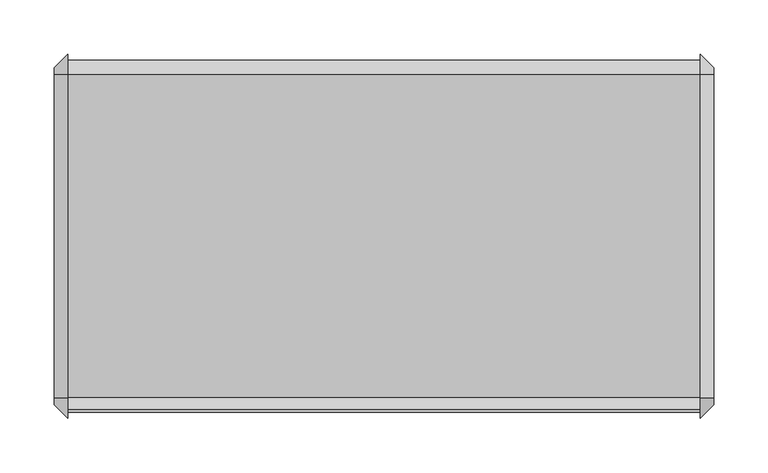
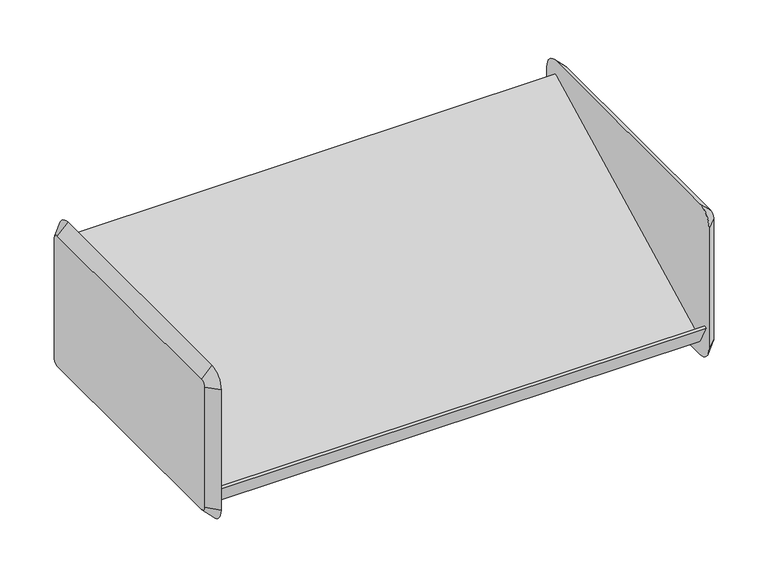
"""IFC4 building model written with IfcOpenShell, lengths in millimetres: furniture geometry."""

from ifc_helpers import new_model, si_unit, frame, origin, place, context, project, spatial, polyline, circle_curve, outline, extrude, source, transform, mapped, element, save
from ifc_brep_helpers import plane_surface, revolved_surface, advanced_brep


def furniture_cacd6572(model_context):
    return source(origin(), model_context, "Body", "SolidModel", [
        advanced_brep(
        [(180.8579955, 161.925, 1816.1), (180.8579955, -136.525, 1816.1), (180.8579955, -142.875, 1809.75), (180.8579955, -142.875, 1657.35), (180.8579955, -136.525, 1651.0), (180.8579955, 161.925, 1651.0), (180.8579955, 168.275, 1657.35), (180.8579955, 168.275, 1809.75), (168.1579955, 161.925, 1828.8), (168.1579955, 180.975, 1809.75), (168.1579955, 180.975, 1657.35), (168.1579955, 161.925, 1638.3), (168.1579955, -136.525, 1638.3), (168.1579955, -155.575, 1657.35), (168.1579955, -155.575, 1809.75), (168.1579955, -136.525, 1828.8)],
        [
            (0, 1),
            (1, 2, circle_curve(frame((180.8579955, -136.525, 1809.75), z_axis=(1.0, 2.0730084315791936e-12, -2.1742607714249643e-12), x_axis=(2.1742640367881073e-12, 0.0, 1.0)), 6.35)),
            (2, 3),
            (3, 4, circle_curve(frame((180.8579955, -136.525, 1657.35), z_axis=(1.0, 2.059685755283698e-12, 2.025046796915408e-12), x_axis=(2.059647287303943e-12, -1.0, 0.0)), 6.35)),
            (4, 5),
            (5, 6, circle_curve(frame((180.8579955, 161.925, 1657.35), z_axis=(1.0, 2.088995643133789e-12, -2.088995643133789e-12), x_axis=(-2.0890080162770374e-12, 0.0, -1.0)), 6.35)),
            (6, 7),
            (7, 0, circle_curve(frame((180.8579955, 161.925, 1809.75), z_axis=(1.0, 2.075672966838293e-12, 1.9610979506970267e-12), x_axis=(-2.075662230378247e-12, 1.0, 0.0)), 6.35)),
            (8, 9, circle_curve(frame((168.1579955, 161.925, 1809.75), z_axis=(-1.0, -2.075672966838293e-12, -1.9610979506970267e-12), x_axis=(-2.075662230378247e-12, 1.0, 0.0)), 19.05)),
            (9, 10),
            (10, 11, circle_curve(frame((168.1579955, 161.925, 1657.35), z_axis=(-1.0, -2.088995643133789e-12, 2.088995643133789e-12), x_axis=(-2.0890080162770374e-12, 0.0, -1.0)), 19.05)),
            (11, 12),
            (12, 13, circle_curve(frame((168.1579955, -136.525, 1657.35), z_axis=(-1.0, -2.059685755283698e-12, -2.025046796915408e-12), x_axis=(2.059647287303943e-12, -1.0, 0.0)), 19.05)),
            (13, 14),
            (14, 15, circle_curve(frame((168.1579955, -136.525, 1809.75), z_axis=(-1.0, -2.0730084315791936e-12, 2.1742607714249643e-12), x_axis=(2.1742640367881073e-12, 0.0, 1.0)), 19.05)),
            (15, 8),
            (15, 1),
            (0, 8),
            (14, 2),
            (13, 3),
            (12, 4),
            (11, 5),
            (10, 6),
            (9, 7),
        ],
        [
            plane_surface(frame((180.8579955, 12.7, 1733.55), z_axis=(1.0, 0.0, 0.0), x_axis=(0.0, -1.0, 0.0))),
            plane_surface(frame((168.1579955, 12.7, 1733.55), z_axis=(-1.0, 0.0, 0.0), x_axis=(0.0, -1.0, 0.0))),
            plane_surface(frame((168.1579955, 12.7, 1828.8), z_axis=(0.7071067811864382, 0.0, 0.7071067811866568), x_axis=(0.0, -1.0, 0.0))),
            revolved_surface(polyline([(180.8579955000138, -136.525, 1816.0999999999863), (168.1579955, -136.525, 1828.8)]), (187.2079955, -136.525, 1809.75), (-1.0, -2.0730084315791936e-12, 2.1742607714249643e-12)),
            plane_surface(frame((168.1579955, -155.575, 1733.55), z_axis=(0.707106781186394, -0.7071067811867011, 0.0), x_axis=(0.0, 0.0, -1.0))),
            revolved_surface(polyline([(180.85799550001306, -142.87499999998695, 1657.35), (168.1579955, -155.575, 1657.35)]), (187.2079955, -136.525, 1657.35), (-1.0, -2.059685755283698e-12, -2.025046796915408e-12)),
            plane_surface(frame((168.1579955, 12.7, 1638.3), z_axis=(0.7071067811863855, 0.0, -0.7071067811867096), x_axis=(0.0, 1.0, 0.0))),
            revolved_surface(polyline([(180.8579955, 161.925, 1651.0), (168.1579954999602, 161.925, 1638.2999999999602)]), (187.2079955, 161.925, 1657.35), (-1.0, -2.088995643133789e-12, 2.088995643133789e-12)),
            plane_surface(frame((168.1579955, 180.975, 1733.55), z_axis=(0.707106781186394, 0.7071067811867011, 0.0), x_axis=(0.0, 0.0, 1.0))),
            revolved_surface(polyline([(180.8579955, 168.27500000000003, 1809.75), (168.15799549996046, 180.97500000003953, 1809.75)]), (187.2079955, 161.925, 1809.75), (-1.0, -2.075672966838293e-12, -1.9610979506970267e-12)),
        ],
        [
            (0, [[1, 2, 3, 4, 5, 6, 7, 8]]),
            (1, [[9, 10, 11, 12, 13, 14, 15, 16]]),
            (2, [[-16, 17, -1, 18]]),
            (3, [[-15, 19, -2, -17]]),
            (4, [[-14, 20, -3, -19]]),
            (5, [[-13, 21, -4, -20]]),
            (6, [[-12, 22, -5, -21]]),
            (7, [[-11, 23, -6, -22]]),
            (8, [[-10, 24, -7, -23]]),
            (9, [[-9, -18, -8, -24]]),
        ],
    ),
        advanced_brep(
        [(-428.7420045, -136.525, 1816.1), (-428.7420045, 161.925, 1816.1), (-428.7420045, 168.275, 1809.75), (-428.7420045, 168.275, 1657.35), (-428.7420045, 161.925, 1651.0), (-428.7420045, -136.525, 1651.0), (-428.7420045, -142.875, 1657.35), (-428.7420045, -142.875, 1809.75), (-416.0420045, -136.525, 1828.8), (-416.0420045, -155.575, 1809.75), (-416.0420045, -155.575, 1657.35), (-416.0420045, -136.525, 1638.3), (-416.0420045, 161.925, 1638.3), (-416.0420045, 180.975, 1657.35), (-416.0420045, 180.975, 1809.75), (-416.0420045, 161.925, 1828.8)],
        [
            (0, 1),
            (1, 2, circle_curve(frame((-428.7420045, 161.925, 1809.75), z_axis=(-1.0, 0.0, 0.0), x_axis=(0.0, 0.0, 1.0)), 6.35)),
            (2, 3),
            (3, 4, circle_curve(frame((-428.7420045, 161.925, 1657.35), z_axis=(-1.0, 0.0, 0.0), x_axis=(0.0, 1.0, 0.0)), 6.35)),
            (4, 5),
            (5, 6, circle_curve(frame((-428.7420045, -136.525, 1657.35), z_axis=(-1.0, 0.0, 0.0), x_axis=(0.0, 0.0, -1.0)), 6.35)),
            (6, 7),
            (7, 0, circle_curve(frame((-428.7420045, -136.525, 1809.75), z_axis=(-1.0, 0.0, 0.0), x_axis=(0.0, -1.0, 0.0)), 6.35)),
            (8, 9, circle_curve(frame((-416.0420045, -136.525, 1809.75), z_axis=(1.0, 0.0, 0.0), x_axis=(0.0, -1.0, 0.0)), 19.05)),
            (9, 10),
            (10, 11, circle_curve(frame((-416.0420045, -136.525, 1657.35), z_axis=(1.0, 0.0, 0.0), x_axis=(0.0, 0.0, -1.0)), 19.05)),
            (11, 12),
            (12, 13, circle_curve(frame((-416.0420045, 161.925, 1657.35), z_axis=(1.0, 0.0, 0.0), x_axis=(0.0, 1.0, 0.0)), 19.05)),
            (13, 14),
            (14, 15, circle_curve(frame((-416.0420045, 161.925, 1809.75), z_axis=(1.0, 0.0, 0.0), x_axis=(0.0, 0.0, 1.0)), 19.05)),
            (15, 8),
            (15, 1),
            (0, 8),
            (14, 2),
            (13, 3),
            (12, 4),
            (11, 5),
            (10, 6),
            (9, 7),
        ],
        [
            plane_surface(frame((-428.7420045, 12.7, 1733.55), z_axis=(-1.0, 0.0, 0.0), x_axis=(0.0, -1.0, 0.0))),
            plane_surface(frame((-416.0420045, 12.7, 1733.55), z_axis=(1.0, 0.0, 0.0), x_axis=(0.0, -1.0, 0.0))),
            plane_surface(frame((-416.0420045, 12.7, 1828.8), z_axis=(-0.7071067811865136, 0.0, 0.7071067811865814), x_axis=(0.0, 1.0, 0.0))),
            revolved_surface(polyline([(-428.7420045, 161.925, 1816.1), (-416.0420045, 161.925, 1828.8)]), (-435.0920045, 161.925, 1809.75), (1.0, 0.0, 0.0)),
            plane_surface(frame((-416.0420045, 180.975, 1733.55), z_axis=(-0.7071067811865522, 0.7071067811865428, 0.0), x_axis=(0.0, 0.0, -1.0))),
            revolved_surface(polyline([(-428.7420045, 168.27499999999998, 1657.35), (-416.0420045, 180.975, 1657.35)]), (-435.0920045, 161.925, 1657.35), (1.0, 0.0, 0.0)),
            plane_surface(frame((-416.0420045, 12.7, 1638.3), z_axis=(-0.7071067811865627, 0.0, -0.7071067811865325), x_axis=(0.0, -1.0, 0.0))),
            revolved_surface(polyline([(-428.7420045, -136.525, 1651.0), (-416.0420045, -136.525, 1638.3)]), (-435.0920045, -136.525, 1657.35), (1.0, 0.0, 0.0)),
            plane_surface(frame((-416.0420045, -155.575, 1733.55), z_axis=(-0.7071067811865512, -0.7071067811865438, 0.0), x_axis=(0.0, 0.0, 1.0))),
            revolved_surface(polyline([(-428.7420045, -142.87499999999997, 1809.75), (-416.0420045, -155.575, 1809.75)]), (-435.0920045, -136.525, 1809.75), (1.0, 0.0, 0.0)),
        ],
        [
            (0, [[1, 2, 3, 4, 5, 6, 7, 8]]),
            (1, [[9, 10, 11, 12, 13, 14, 15, 16]]),
            (2, [[-16, 17, -1, 18]]),
            (3, [[-15, 19, -2, -17]]),
            (4, [[-14, 20, -3, -19]]),
            (5, [[-13, 21, -4, -20]]),
            (6, [[-12, 22, -5, -21]]),
            (7, [[-11, 23, -6, -22]]),
            (8, [[-10, 24, -7, -23]]),
            (9, [[-9, -18, -8, -24]]),
        ],
    ),
        extrude(outline(polyline([(-137.2094993, 1655.2179666), (-149.845093, 1679.6467844), (-147.0173828, 1681.0907216), (-135.8404765, 1659.4820334), (162.5893131, 1811.8717194), (175.2453599, 1788.2470972), (172.4171401, 1786.8028998), (161.2606869, 1807.6282806), (-137.2094993, 1655.2179666)])), frame((-416.0420045, 0.0, 0.0), z_axis=(1.0, 0.0, 0.0), x_axis=(0.0, 1.0, 0.0)), (0.0, 0.0, 1.0), 584.2),
    ])


if __name__ == "__main__":
    model = new_model("IFC4")
    model_context = context("Model", 3, world=origin())
    ifc_project = project(units=[si_unit("LENGTHUNIT", "METRE", prefix="MILLI")], contexts=[model_context])
    site = spatial("IfcSite", under=ifc_project)
    building = spatial("IfcBuilding", under=site)
    placement = place(None, origin())
    furniture_shape = furniture_cacd6572(model_context)
    element("IfcFurniture", 1, ObjectType="HermanMiller_ActionOffice_A3220_B-StyleStorageDisplay : Display 13\"D x 24\"W", at=placement, inside=building, context=model_context, shape_type="MappedRepresentation", body=[
        mapped(furniture_shape, transform((0.0, 0.0, 0.0), x_axis=(1.0, 0.0, 0.0), y_axis=(0.0, 1.0, 0.0), z_axis=(0.0, 0.0, 1.0))),
    ])
    save(model, "model.ifc")
